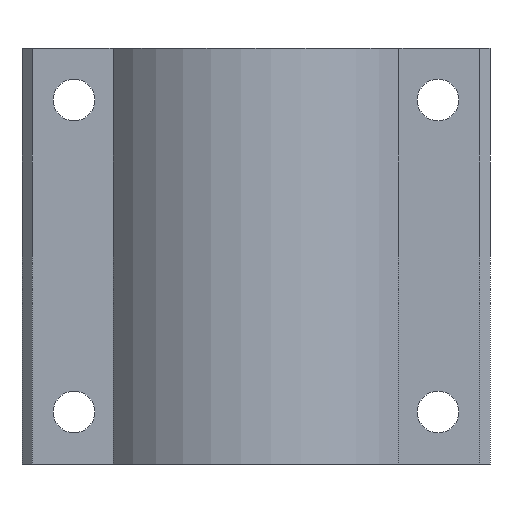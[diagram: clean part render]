
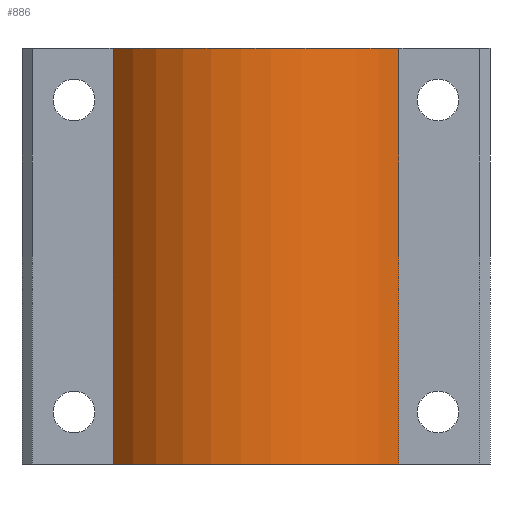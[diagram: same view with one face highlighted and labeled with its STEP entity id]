
A CAD part, front view. The second image highlights one B-rep face of the part: STEP entity #886.
In plain terms, the highlighted cylindrical face has radius 34 mm (diameter 68 mm), a partial arc.
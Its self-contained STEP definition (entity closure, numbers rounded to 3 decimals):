
#689=CARTESIAN_POINT('',(26.787,-15.802,-5.0));
#690=VERTEX_POINT('',#689);
#697=CARTESIAN_POINT('',(-28.204,-15.802,-5.0));
#698=VERTEX_POINT('',#697);
#699=CARTESIAN_POINT('',(-0.709,4.198,-5.0));
#700=DIRECTION('',(0.0,0.0,1.));
#701=DIRECTION('',(0.809,0.588,0.0));
#702=AXIS2_PLACEMENT_3D('',#699,#700,#701);
#703=CIRCLE('',#702,34.0);
#704=EDGE_CURVE('',#698,#690,#703,.T.);
#835=CARTESIAN_POINT('',(26.787,-15.802,75.0));
#836=VERTEX_POINT('',#835);
#843=CARTESIAN_POINT('',(26.787,-15.802,75.0));
#844=DIRECTION('',(0.0,0.0,-1.0));
#845=VECTOR('',#844,80.0);
#846=LINE('',#843,#845);
#847=EDGE_CURVE('',#836,#690,#846,.T.);
#862=CARTESIAN_POINT('',(-0.709,4.198,35.0));
#863=DIRECTION('',(0.0,0.0,1.0));
#864=DIRECTION('',(0.809,0.588,0.0));
#865=AXIS2_PLACEMENT_3D('',#862,#863,#864);
#866=CYLINDRICAL_SURFACE('',#865,34.0);
#867=CARTESIAN_POINT('',(-28.204,-15.802,75.0));
#868=VERTEX_POINT('',#867);
#869=CARTESIAN_POINT('',(-0.709,4.198,75.0));
#870=DIRECTION('',(0.0,0.0,-1.));
#871=DIRECTION('',(0.809,0.588,0.0));
#872=AXIS2_PLACEMENT_3D('',#869,#870,#871);
#873=CIRCLE('',#872,34.0);
#874=EDGE_CURVE('',#836,#868,#873,.T.);
#875=ORIENTED_EDGE('',*,*,#874,.T.);
#876=CARTESIAN_POINT('',(-28.204,-15.802,75.0));
#877=DIRECTION('',(0.0,0.0,-1.0));
#878=VECTOR('',#877,80.0);
#879=LINE('',#876,#878);
#880=EDGE_CURVE('',#868,#698,#879,.T.);
#881=ORIENTED_EDGE('',*,*,#880,.T.);
#882=ORIENTED_EDGE('',*,*,#704,.T.);
#883=ORIENTED_EDGE('',*,*,#847,.F.);
#884=EDGE_LOOP('',(#875,#881,#882,#883));
#885=FACE_OUTER_BOUND('',#884,.T.);
#886=ADVANCED_FACE('',(#885),#866,.T.);
